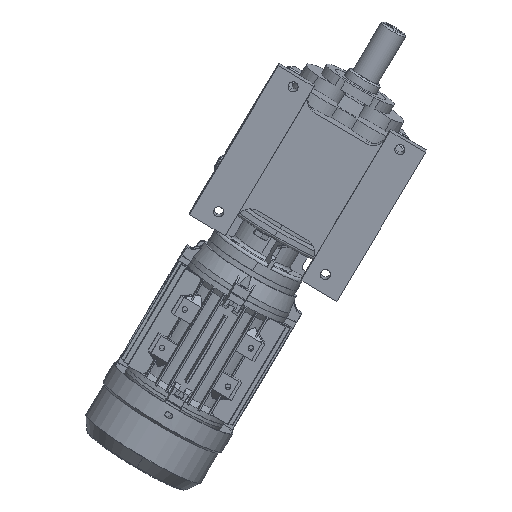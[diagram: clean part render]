
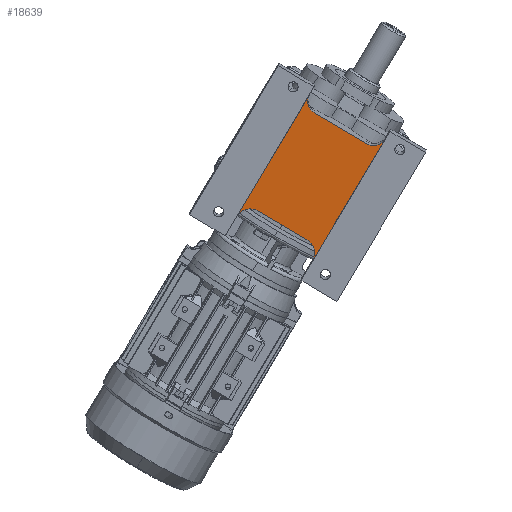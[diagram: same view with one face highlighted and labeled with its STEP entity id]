
A CAD part, front view. The second image highlights one B-rep face of the part: STEP entity #18639.
In plain terms, the highlighted planar face has unit normal (-0.016, -0.992, -0.127) as drawn and (0, -1, 0) by its records, which use the part's own axes.
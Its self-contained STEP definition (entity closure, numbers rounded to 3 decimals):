
#13971 = AXIS2_PLACEMENT_3D ( 'NONE', #16202, #16169, #16198 ) ;
#14032 = AXIS2_PLACEMENT_3D ( 'NONE', #17472, #17490, #17494 ) ;
#14037 = AXIS2_PLACEMENT_3D ( 'NONE', #16067, #16073, #16071 ) ;
#14054 = AXIS2_PLACEMENT_3D ( 'NONE', #17356, #17377, #17335 ) ;
#16067 = CARTESIAN_POINT ( 'NONE',  ( -27., -89.5, 69.5 ) ) ;
#16071 = DIRECTION ( 'NONE',  ( 1., 0., 0. ) ) ;
#16073 = DIRECTION ( 'NONE',  ( 0., -1., 0. ) ) ;
#16114 = CARTESIAN_POINT ( 'NONE',  ( -39., -89.5, 57.5 ) ) ;
#16139 = DIRECTION ( 'NONE',  ( 1., 0., 0. ) ) ;
#16169 = DIRECTION ( 'NONE',  ( 0., -1., 0. ) ) ;
#16198 = DIRECTION ( 'NONE',  ( 1., 0., 0. ) ) ;
#16202 = CARTESIAN_POINT ( 'NONE',  ( 25., -89.5, -57.5 ) ) ;
#16385 = DIRECTION ( 'NONE',  ( 0., 0., 1. ) ) ;
#16411 = CARTESIAN_POINT ( 'NONE',  ( -39., -89.5, -77.5 ) ) ;
#17335 = DIRECTION ( 'NONE',  ( -1., 0., 0. ) ) ;
#17356 = CARTESIAN_POINT ( 'NONE',  ( 27., -89.5, 69.5 ) ) ;
#17377 = DIRECTION ( 'NONE',  ( 0., -1., 0. ) ) ;
#17382 = CARTESIAN_POINT ( 'NONE',  ( -39., -89.5, -43.5 ) ) ;
#17399 = DIRECTION ( 'NONE',  ( -1., 0., 0. ) ) ;
#17428 = CARTESIAN_POINT ( 'NONE',  ( 39., -89.5, -77.5 ) ) ;
#17472 = CARTESIAN_POINT ( 'NONE',  ( -25., -89.5, -57.5 ) ) ;
#17490 = DIRECTION ( 'NONE',  ( 0., -1., 0. ) ) ;
#17494 = DIRECTION ( 'NONE',  ( -1., 0., 0. ) ) ;
#17498 = DIRECTION ( 'NONE',  ( 0., 0., -1. ) ) ;
#18639 = ADVANCED_FACE ( 'NONE', ( #67244 ), #51812, .F. ) ;
#25871 = ORIENTED_EDGE ( 'NONE', *, *, #78939, .F. ) ;
#25873 = ORIENTED_EDGE ( 'NONE', *, *, #79156, .F. ) ;
#25893 = ORIENTED_EDGE ( 'NONE', *, *, #79016, .F. ) ;
#25895 = ORIENTED_EDGE ( 'NONE', *, *, #78921, .F. ) ;
#25899 = ORIENTED_EDGE ( 'NONE', *, *, #78925, .F. ) ;
#25901 = ORIENTED_EDGE ( 'NONE', *, *, #78960, .F. ) ;
#25927 = ORIENTED_EDGE ( 'NONE', *, *, #79047, .F. ) ;
#34996 = AXIS2_PLACEMENT_3D ( 'NONE', #51813, #51823, #51848 ) ;
#41008 = VERTEX_POINT ( 'NONE', #78534 ) ;
#41013 = VERTEX_POINT ( 'NONE', #78605 ) ;
#41021 = VERTEX_POINT ( 'NONE', #78635 ) ;
#41022 = VERTEX_POINT ( 'NONE', #78555 ) ;
#41025 = VERTEX_POINT ( 'NONE', #78665 ) ;
#41026 = VERTEX_POINT ( 'NONE', #78591 ) ;
#41027 = VERTEX_POINT ( 'NONE', #78670 ) ;
#41028 = VERTEX_POINT ( 'NONE', #78740 ) ;
#41064 = ORIENTED_EDGE ( 'NONE', *, *, #79035, .F. ) ;
#51812 = PLANE ( 'NONE',  #34996 ) ;
#51813 = CARTESIAN_POINT ( 'NONE',  ( -39., -89.5, -77.5 ) ) ;
#51823 = DIRECTION ( 'NONE',  ( 0., 1., 0. ) ) ;
#51848 = DIRECTION ( 'NONE',  ( 0., 0., 1. ) ) ;
#67244 = FACE_OUTER_BOUND ( 'NONE', #80061, .T. ) ;
#69685 = CIRCLE ( 'NONE', #14032, 14. ) ;
#69695 = CIRCLE ( 'NONE', #14037, 12. ) ;
#69697 = VECTOR ( 'NONE', #17498, 1000. ) ;
#69704 = LINE ( 'NONE', #16114, #69705 ) ;
#69705 = VECTOR ( 'NONE', #16139, 1000. ) ;
#69707 = LINE ( 'NONE', #17428, #69697 ) ;
#69712 = CIRCLE ( 'NONE', #14054, 12. ) ;
#69733 = CIRCLE ( 'NONE', #13971, 14. ) ;
#69837 = VECTOR ( 'NONE', #16385, 1000. ) ;
#69857 = LINE ( 'NONE', #16411, #69837 ) ;
#70897 = LINE ( 'NONE', #17382, #70913 ) ;
#70913 = VECTOR ( 'NONE', #17399, 1000. ) ;
#78534 = CARTESIAN_POINT ( 'NONE',  ( 27., -89.5, 57.5 ) ) ;
#78555 = CARTESIAN_POINT ( 'NONE',  ( -27., -89.5, 57.5 ) ) ;
#78591 = CARTESIAN_POINT ( 'NONE',  ( -25., -89.5, -43.5 ) ) ;
#78605 = CARTESIAN_POINT ( 'NONE',  ( 39., -89.5, 69.5 ) ) ;
#78635 = CARTESIAN_POINT ( 'NONE',  ( 25., -89.5, -43.5 ) ) ;
#78665 = CARTESIAN_POINT ( 'NONE',  ( -39., -89.5, -57.5 ) ) ;
#78670 = CARTESIAN_POINT ( 'NONE',  ( -39., -89.5, 69.5 ) ) ;
#78740 = CARTESIAN_POINT ( 'NONE',  ( 39., -89.5, -57.5 ) ) ;
#78921 = EDGE_CURVE ( 'NONE', #41021, #41026, #70897, .T. ) ;
#78925 = EDGE_CURVE ( 'NONE', #41008, #41013, #69712, .T. ) ;
#78939 = EDGE_CURVE ( 'NONE', #41013, #41028, #69707, .T. ) ;
#78960 = EDGE_CURVE ( 'NONE', #41026, #41025, #69685, .T. ) ;
#79016 = EDGE_CURVE ( 'NONE', #41027, #41022, #69695, .T. ) ;
#79035 = EDGE_CURVE ( 'NONE', #41022, #41008, #69704, .T. ) ;
#79047 = EDGE_CURVE ( 'NONE', #41028, #41021, #69733, .T. ) ;
#79156 = EDGE_CURVE ( 'NONE', #41025, #41027, #69857, .T. ) ;
#80061 = EDGE_LOOP ( 'NONE', ( #25895, #25927, #25871, #25899, #41064, #25893, #25873, #25901 ) ) ;
